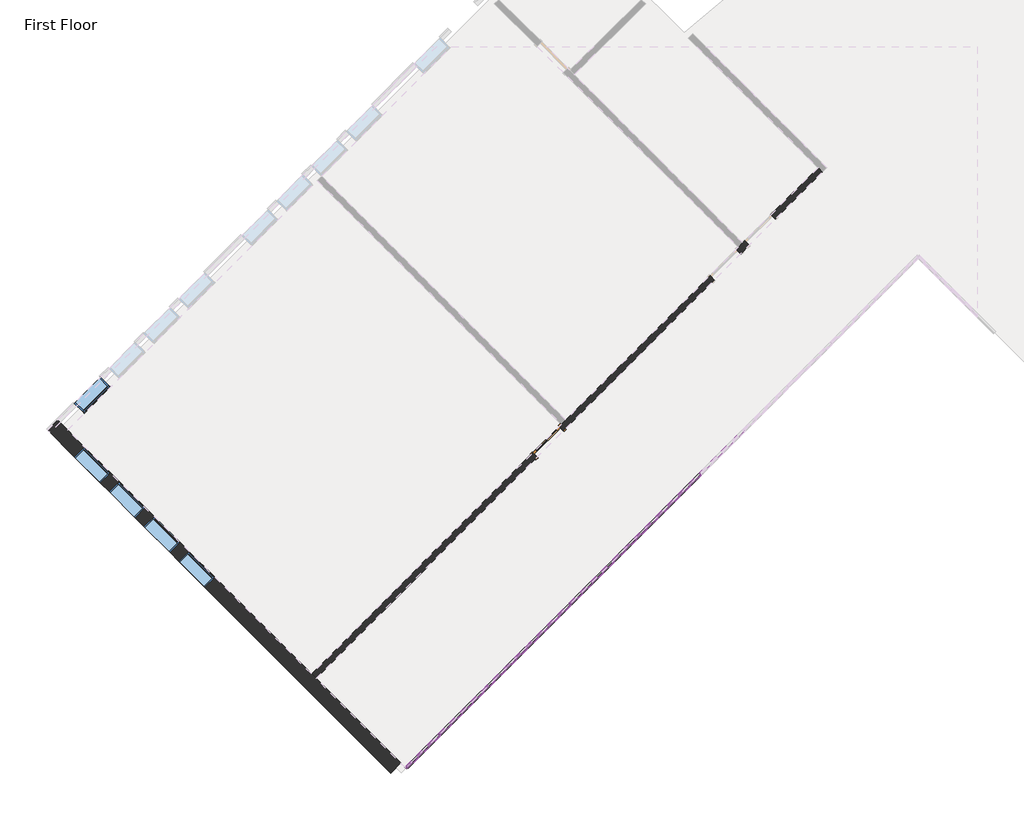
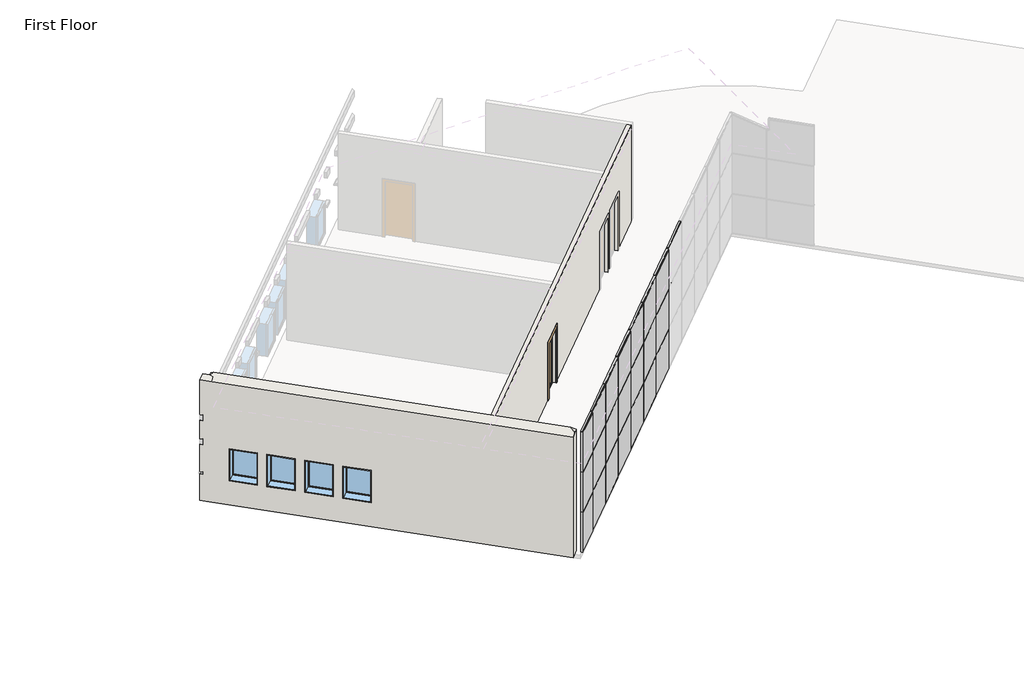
# One storey, part 1 of 5: 55 members, 21 plates, 5 windows, 2 walls, 1 door.
"""IFC4 building model written with IfcOpenShell, lengths in millimetres."""

from ifc_helpers import new_model, si_unit, origin, place, context, project, spatial, faceted_brep, transform, mapped, element, save
from components import door_b81abb0e, member_bd80eb51, member_155beb68, member_42be4715, member_6121af53, member_a3731390, member_b87a50da, system_panel_glazed_da345f4e, system_panel_glazed_b4114ee2, system_panel_glazed_f1e4c5b0, system_panel_glazed_dc791129, system_panel_solid_2f1037e2, system_panel_solid_6e0f4c8d, window_15c49d37, window_0e2fc6ce

model = new_model("IFC4")

# Units and contexts
model_context = context("Model", 3, world=origin())
ifc_project = project(units=[si_unit("LENGTHUNIT", "METRE", prefix="MILLI")], contexts=[model_context])

# Site, building, storey
site = spatial("IfcSite", under=ifc_project)
building = spatial("IfcBuilding", under=site)
storey = spatial("IfcBuildingStorey", under=building, Name="First Floor", Elevation=0.0)

# Door
placement = place(None, origin())
door_shape = door_b81abb0e(model_context)
element("IfcDoor", 1, ObjectType="Single-Glass 1 : 36\" x 84\"", at=placement, inside=storey, context=model_context, shape_type="MappedRepresentation", body=[
    mapped(door_shape, transform((-12027.7718255, -1647.4849877, 0.0), x_axis=(0.7071067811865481, 0.7071067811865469, 0.0), y_axis=(-0.7071067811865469, 0.7071067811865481, 0.0), z_axis=(0.0, 0.0, 1.0))),
])

# Members
member_shape = member_bd80eb51(model_context)
element("IfcMember", 2, ObjectType="Rectangular Mullion : 1.5\" x 2.5\" Rectangular", at=placement, inside=storey, context=model_context, shape_type="MappedRepresentation", body=[
    mapped(member_shape, transform((-15523.4543029, -9702.8925106, 4572.0), x_axis=(0.0, 0.0, 1.0), y_axis=(-0.7071067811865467, 0.7071067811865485, 0.0), z_axis=(-0.7071067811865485, -0.7071067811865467, 0.0))),
])
member_2_shape = member_155beb68(model_context)
element("IfcMember", 3, ObjectType="Rectangular Mullion : 1.5\" x 2.5\" Rectangular", at=placement, inside=storey, context=model_context, shape_type="MappedRepresentation", body=[
    mapped(member_2_shape, transform((-8256.1820369, -2435.6202446, 0.0), x_axis=(-0.7071067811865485, -0.7071067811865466, 0.0), y_axis=(-0.7071067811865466, 0.7071067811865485, 0.0), z_axis=(0.0, 0.0, -1.0))),
])
element("IfcMember", 4, ObjectType="Rectangular Mullion : 1.5\" x 2.5\" Rectangular", at=placement, inside=storey, context=model_context, shape_type="MappedRepresentation", body=[
    mapped(member_2_shape, transform((-9333.8127715, -3513.2509792, 0.0), x_axis=(-0.7071067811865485, -0.7071067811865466, 0.0), y_axis=(-0.7071067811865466, 0.7071067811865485, 0.0), z_axis=(0.0, 0.0, -1.0))),
])
element("IfcMember", 5, ObjectType="Rectangular Mullion : 1.5\" x 2.5\" Rectangular", at=placement, inside=storey, context=model_context, shape_type="MappedRepresentation", body=[
    mapped(member_2_shape, transform((-10411.443506, -4590.8817137, 0.0), x_axis=(-0.7071067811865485, -0.7071067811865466, 0.0), y_axis=(-0.7071067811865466, 0.7071067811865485, 0.0), z_axis=(0.0, 0.0, -1.0))),
])
element("IfcMember", 6, ObjectType="Rectangular Mullion : 1.5\" x 2.5\" Rectangular", at=placement, inside=storey, context=model_context, shape_type="MappedRepresentation", body=[
    mapped(member_2_shape, transform((-11489.0742405, -5668.5124482, 0.0), x_axis=(-0.7071067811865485, -0.7071067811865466, 0.0), y_axis=(-0.7071067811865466, 0.7071067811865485, 0.0), z_axis=(0.0, 0.0, -1.0))),
])
element("IfcMember", 7, ObjectType="Rectangular Mullion : 1.5\" x 2.5\" Rectangular", at=placement, inside=storey, context=model_context, shape_type="MappedRepresentation", body=[
    mapped(member_2_shape, transform((-12566.7049751, -6746.1431827, 0.0), x_axis=(-0.7071067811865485, -0.7071067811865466, 0.0), y_axis=(-0.7071067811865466, 0.7071067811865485, 0.0), z_axis=(0.0, 0.0, -1.0))),
])
element("IfcMember", 8, ObjectType="Rectangular Mullion : 1.5\" x 2.5\" Rectangular", at=placement, inside=storey, context=model_context, shape_type="MappedRepresentation", body=[
    mapped(member_2_shape, transform((-13644.3357096, -7823.7739173, 0.0), x_axis=(-0.7071067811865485, -0.7071067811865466, 0.0), y_axis=(-0.7071067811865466, 0.7071067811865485, 0.0), z_axis=(0.0, 0.0, -1.0))),
])
element("IfcMember", 9, ObjectType="Rectangular Mullion : 1.5\" x 2.5\" Rectangular", at=placement, inside=storey, context=model_context, shape_type="MappedRepresentation", body=[
    mapped(member_2_shape, transform((-14721.9664441, -8901.4046518, 0.0), x_axis=(-0.7071067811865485, -0.7071067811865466, 0.0), y_axis=(-0.7071067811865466, 0.7071067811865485, 0.0), z_axis=(0.0, 0.0, -1.0))),
])
element("IfcMember", 10, ObjectType="Rectangular Mullion : 1.5\" x 2.5\" Rectangular", at=placement, inside=storey, context=model_context, shape_type="MappedRepresentation", body=[
    mapped(member_2_shape, transform((-8256.1820369, -2435.6202446, 3048.0), x_axis=(-0.7071067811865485, -0.7071067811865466, 0.0), y_axis=(-0.7071067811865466, 0.7071067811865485, 0.0), z_axis=(0.0, 0.0, -1.0))),
])
element("IfcMember", 11, ObjectType="Rectangular Mullion : 1.5\" x 2.5\" Rectangular", at=placement, inside=storey, context=model_context, shape_type="MappedRepresentation", body=[
    mapped(member_2_shape, transform((-9333.8127715, -3513.2509792, 3048.0), x_axis=(-0.7071067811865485, -0.7071067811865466, 0.0), y_axis=(-0.7071067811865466, 0.7071067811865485, 0.0), z_axis=(0.0, 0.0, -1.0))),
])
element("IfcMember", 12, ObjectType="Rectangular Mullion : 1.5\" x 2.5\" Rectangular", at=placement, inside=storey, context=model_context, shape_type="MappedRepresentation", body=[
    mapped(member_2_shape, transform((-10411.443506, -4590.8817137, 3048.0), x_axis=(-0.7071067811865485, -0.7071067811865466, 0.0), y_axis=(-0.7071067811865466, 0.7071067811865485, 0.0), z_axis=(0.0, 0.0, -1.0))),
])
element("IfcMember", 13, ObjectType="Rectangular Mullion : 1.5\" x 2.5\" Rectangular", at=placement, inside=storey, context=model_context, shape_type="MappedRepresentation", body=[
    mapped(member_2_shape, transform((-11489.0742405, -5668.5124482, 3048.0), x_axis=(-0.7071067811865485, -0.7071067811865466, 0.0), y_axis=(-0.7071067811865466, 0.7071067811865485, 0.0), z_axis=(0.0, 0.0, -1.0))),
])
element("IfcMember", 14, ObjectType="Rectangular Mullion : 1.5\" x 2.5\" Rectangular", at=placement, inside=storey, context=model_context, shape_type="MappedRepresentation", body=[
    mapped(member_2_shape, transform((-12566.7049751, -6746.1431827, 3048.0), x_axis=(-0.7071067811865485, -0.7071067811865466, 0.0), y_axis=(-0.7071067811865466, 0.7071067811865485, 0.0), z_axis=(0.0, 0.0, -1.0))),
])
element("IfcMember", 15, ObjectType="Rectangular Mullion : 1.5\" x 2.5\" Rectangular", at=placement, inside=storey, context=model_context, shape_type="MappedRepresentation", body=[
    mapped(member_2_shape, transform((-13644.3357096, -7823.7739173, 3048.0), x_axis=(-0.7071067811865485, -0.7071067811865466, 0.0), y_axis=(-0.7071067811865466, 0.7071067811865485, 0.0), z_axis=(0.0, 0.0, -1.0))),
])
element("IfcMember", 16, ObjectType="Rectangular Mullion : 1.5\" x 2.5\" Rectangular", at=placement, inside=storey, context=model_context, shape_type="MappedRepresentation", body=[
    mapped(member_2_shape, transform((-14721.9664441, -8901.4046518, 3048.0), x_axis=(-0.7071067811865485, -0.7071067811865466, 0.0), y_axis=(-0.7071067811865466, 0.7071067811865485, 0.0), z_axis=(0.0, 0.0, -1.0))),
])
element("IfcMember", 17, ObjectType="Rectangular Mullion : 1.5\" x 2.5\" Rectangular", at=placement, inside=storey, context=model_context, shape_type="MappedRepresentation", body=[
    mapped(member_2_shape, transform((-8256.1820369, -2435.6202446, 1524.0), x_axis=(-0.7071067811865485, -0.7071067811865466, 0.0), y_axis=(-0.7071067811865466, 0.7071067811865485, 0.0), z_axis=(0.0, 0.0, -1.0))),
])
element("IfcMember", 18, ObjectType="Rectangular Mullion : 1.5\" x 2.5\" Rectangular", at=placement, inside=storey, context=model_context, shape_type="MappedRepresentation", body=[
    mapped(member_2_shape, transform((-9333.8127715, -3513.2509792, 1524.0), x_axis=(-0.7071067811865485, -0.7071067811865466, 0.0), y_axis=(-0.7071067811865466, 0.7071067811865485, 0.0), z_axis=(0.0, 0.0, -1.0))),
])
element("IfcMember", 19, ObjectType="Rectangular Mullion : 1.5\" x 2.5\" Rectangular", at=placement, inside=storey, context=model_context, shape_type="MappedRepresentation", body=[
    mapped(member_2_shape, transform((-10411.443506, -4590.8817137, 1524.0), x_axis=(-0.7071067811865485, -0.7071067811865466, 0.0), y_axis=(-0.7071067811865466, 0.7071067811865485, 0.0), z_axis=(0.0, 0.0, -1.0))),
])
element("IfcMember", 20, ObjectType="Rectangular Mullion : 1.5\" x 2.5\" Rectangular", at=placement, inside=storey, context=model_context, shape_type="MappedRepresentation", body=[
    mapped(member_2_shape, transform((-11489.0742405, -5668.5124482, 1524.0), x_axis=(-0.7071067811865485, -0.7071067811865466, 0.0), y_axis=(-0.7071067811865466, 0.7071067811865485, 0.0), z_axis=(0.0, 0.0, -1.0))),
])
element("IfcMember", 21, ObjectType="Rectangular Mullion : 1.5\" x 2.5\" Rectangular", at=placement, inside=storey, context=model_context, shape_type="MappedRepresentation", body=[
    mapped(member_2_shape, transform((-12566.7049751, -6746.1431827, 1524.0), x_axis=(-0.7071067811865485, -0.7071067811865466, 0.0), y_axis=(-0.7071067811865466, 0.7071067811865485, 0.0), z_axis=(0.0, 0.0, -1.0))),
])
element("IfcMember", 22, ObjectType="Rectangular Mullion : 1.5\" x 2.5\" Rectangular", at=placement, inside=storey, context=model_context, shape_type="MappedRepresentation", body=[
    mapped(member_2_shape, transform((-13644.3357096, -7823.7739173, 1524.0), x_axis=(-0.7071067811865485, -0.7071067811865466, 0.0), y_axis=(-0.7071067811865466, 0.7071067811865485, 0.0), z_axis=(0.0, 0.0, -1.0))),
])
element("IfcMember", 23, ObjectType="Rectangular Mullion : 1.5\" x 2.5\" Rectangular", at=placement, inside=storey, context=model_context, shape_type="MappedRepresentation", body=[
    mapped(member_2_shape, transform((-14721.9664441, -8901.4046518, 1524.0), x_axis=(-0.7071067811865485, -0.7071067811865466, 0.0), y_axis=(-0.7071067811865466, 0.7071067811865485, 0.0), z_axis=(0.0, 0.0, -1.0))),
])
member_3_shape = member_42be4715(model_context)
element("IfcMember", 24, ObjectType="Rectangular Mullion : 1.5\" x 2.5\" Rectangular", at=placement, inside=storey, context=model_context, shape_type="MappedRepresentation", body=[
    mapped(member_3_shape, transform((-8242.7116528, -2422.1498604, 1524.0), x_axis=(0.0, 0.0, 1.0), y_axis=(-0.7071067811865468, 0.7071067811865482, 0.0), z_axis=(-0.7071067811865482, -0.7071067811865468, 0.0))),
])
element("IfcMember", 25, ObjectType="Rectangular Mullion : 1.5\" x 2.5\" Rectangular", at=placement, inside=storey, context=model_context, shape_type="MappedRepresentation", body=[
    mapped(member_3_shape, transform((-9320.3423873, -3499.780595, 1524.0), x_axis=(0.0, 0.0, 1.0), y_axis=(-0.7071067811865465, 0.7071067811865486, 0.0), z_axis=(-0.7071067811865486, -0.7071067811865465, 0.0))),
])
element("IfcMember", 26, ObjectType="Rectangular Mullion : 1.5\" x 2.5\" Rectangular", at=placement, inside=storey, context=model_context, shape_type="MappedRepresentation", body=[
    mapped(member_3_shape, transform((-10397.9731218, -4577.4113295, 1524.0), x_axis=(0.0, 0.0, 1.0), y_axis=(-0.7071067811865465, 0.7071067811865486, 0.0), z_axis=(-0.7071067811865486, -0.7071067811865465, 0.0))),
])
element("IfcMember", 27, ObjectType="Rectangular Mullion : 1.5\" x 2.5\" Rectangular", at=placement, inside=storey, context=model_context, shape_type="MappedRepresentation", body=[
    mapped(member_3_shape, transform((-11475.6038564, -5655.042064, 1524.0), x_axis=(0.0, 0.0, 1.0), y_axis=(-0.7071067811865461, 0.707106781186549, 0.0), z_axis=(-0.7071067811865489, -0.707106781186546, 0.0))),
])
element("IfcMember", 28, ObjectType="Rectangular Mullion : 1.5\" x 2.5\" Rectangular", at=placement, inside=storey, context=model_context, shape_type="MappedRepresentation", body=[
    mapped(member_3_shape, transform((-12553.2345909, -6732.6727986, 1524.0), x_axis=(0.0, 0.0, 1.0), y_axis=(-0.7071067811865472, 0.7071067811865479, 0.0), z_axis=(-0.7071067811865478, -0.7071067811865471, 0.0))),
])
element("IfcMember", 29, ObjectType="Rectangular Mullion : 1.5\" x 2.5\" Rectangular", at=placement, inside=storey, context=model_context, shape_type="MappedRepresentation", body=[
    mapped(member_3_shape, transform((-13630.8653254, -7810.3035331, 1524.0), x_axis=(0.0, 0.0, 1.0), y_axis=(-0.7071067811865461, 0.707106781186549, 0.0), z_axis=(-0.707106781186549, -0.7071067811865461, 0.0))),
])
element("IfcMember", 30, ObjectType="Rectangular Mullion : 1.5\" x 2.5\" Rectangular", at=placement, inside=storey, context=model_context, shape_type="MappedRepresentation", body=[
    mapped(member_3_shape, transform((-14708.4960599, -8887.9342676, 1524.0), x_axis=(0.0, 0.0, 1.0), y_axis=(-0.7071067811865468, 0.7071067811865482, 0.0), z_axis=(-0.7071067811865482, -0.7071067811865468, 0.0))),
])
element("IfcMember", 31, ObjectType="Rectangular Mullion : 1.5\" x 2.5\" Rectangular", at=placement, inside=storey, context=model_context, shape_type="MappedRepresentation", body=[
    mapped(member_3_shape, transform((-8242.7116528, -2422.1498604, 3048.0), x_axis=(0.0, 0.0, 1.0), y_axis=(-0.7071067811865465, 0.7071067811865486, 0.0), z_axis=(-0.7071067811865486, -0.7071067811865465, 0.0))),
])
element("IfcMember", 32, ObjectType="Rectangular Mullion : 1.5\" x 2.5\" Rectangular", at=placement, inside=storey, context=model_context, shape_type="MappedRepresentation", body=[
    mapped(member_3_shape, transform((-9320.3423873, -3499.780595, 3048.0), x_axis=(0.0, 0.0, 1.0), y_axis=(-0.7071067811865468, 0.7071067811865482, 0.0), z_axis=(-0.7071067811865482, -0.7071067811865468, 0.0))),
])
element("IfcMember", 33, ObjectType="Rectangular Mullion : 1.5\" x 2.5\" Rectangular", at=placement, inside=storey, context=model_context, shape_type="MappedRepresentation", body=[
    mapped(member_3_shape, transform((-10397.9731218, -4577.4113295, 3048.0), x_axis=(0.0, 0.0, 1.0), y_axis=(-0.7071067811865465, 0.7071067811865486, 0.0), z_axis=(-0.7071067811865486, -0.7071067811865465, 0.0))),
])
element("IfcMember", 34, ObjectType="Rectangular Mullion : 1.5\" x 2.5\" Rectangular", at=placement, inside=storey, context=model_context, shape_type="MappedRepresentation", body=[
    mapped(member_3_shape, transform((-11475.6038564, -5655.042064, 3048.0), x_axis=(0.0, 0.0, 1.0), y_axis=(-0.7071067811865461, 0.707106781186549, 0.0), z_axis=(-0.7071067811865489, -0.707106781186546, 0.0))),
])
element("IfcMember", 35, ObjectType="Rectangular Mullion : 1.5\" x 2.5\" Rectangular", at=placement, inside=storey, context=model_context, shape_type="MappedRepresentation", body=[
    mapped(member_3_shape, transform((-12553.2345909, -6732.6727986, 3048.0), x_axis=(0.0, 0.0, 1.0), y_axis=(-0.7071067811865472, 0.7071067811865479, 0.0), z_axis=(-0.7071067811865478, -0.7071067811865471, 0.0))),
])
element("IfcMember", 36, ObjectType="Rectangular Mullion : 1.5\" x 2.5\" Rectangular", at=placement, inside=storey, context=model_context, shape_type="MappedRepresentation", body=[
    mapped(member_3_shape, transform((-13630.8653254, -7810.3035331, 3048.0), x_axis=(0.0, 0.0, 1.0), y_axis=(-0.7071067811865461, 0.707106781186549, 0.0), z_axis=(-0.707106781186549, -0.7071067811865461, 0.0))),
])
element("IfcMember", 37, ObjectType="Rectangular Mullion : 1.5\" x 2.5\" Rectangular", at=placement, inside=storey, context=model_context, shape_type="MappedRepresentation", body=[
    mapped(member_3_shape, transform((-14708.4960599, -8887.9342676, 3048.0), x_axis=(0.0, 0.0, 1.0), y_axis=(-0.7071067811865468, 0.7071067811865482, 0.0), z_axis=(-0.7071067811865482, -0.7071067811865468, 0.0))),
])
member_4_shape = member_6121af53(model_context)
element("IfcMember", 38, ObjectType="Rectangular Mullion : 1.5\" x 2.5\" Rectangular", at=placement, inside=storey, context=model_context, shape_type="MappedRepresentation", body=[
    mapped(member_4_shape, transform((-8269.6524211, -2449.0906288, 0.0), x_axis=(0.0, 0.0, -1.0), y_axis=(-0.7071067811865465, 0.7071067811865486, 0.0), z_axis=(0.7071067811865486, 0.7071067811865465, 0.0))),
])
element("IfcMember", 39, ObjectType="Rectangular Mullion : 1.5\" x 2.5\" Rectangular", at=placement, inside=storey, context=model_context, shape_type="MappedRepresentation", body=[
    mapped(member_4_shape, transform((-9347.2831557, -3526.7213633, 0.0), x_axis=(0.0, 0.0, -1.0), y_axis=(-0.7071067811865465, 0.7071067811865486, 0.0), z_axis=(0.7071067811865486, 0.7071067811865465, 0.0))),
])
element("IfcMember", 40, ObjectType="Rectangular Mullion : 1.5\" x 2.5\" Rectangular", at=placement, inside=storey, context=model_context, shape_type="MappedRepresentation", body=[
    mapped(member_4_shape, transform((-10424.9138902, -4604.3520979, 0.0), x_axis=(0.0, 0.0, -1.0), y_axis=(-0.7071067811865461, 0.707106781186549, 0.0), z_axis=(0.7071067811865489, 0.707106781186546, 0.0))),
])
element("IfcMember", 41, ObjectType="Rectangular Mullion : 1.5\" x 2.5\" Rectangular", at=placement, inside=storey, context=model_context, shape_type="MappedRepresentation", body=[
    mapped(member_4_shape, transform((-11502.5446247, -5681.9828324, 0.0), x_axis=(0.0, 0.0, -1.0), y_axis=(-0.7071067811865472, 0.7071067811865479, 0.0), z_axis=(0.7071067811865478, 0.7071067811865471, 0.0))),
])
element("IfcMember", 42, ObjectType="Rectangular Mullion : 1.5\" x 2.5\" Rectangular", at=placement, inside=storey, context=model_context, shape_type="MappedRepresentation", body=[
    mapped(member_4_shape, transform((-12580.1753592, -6759.6135669, 0.0), x_axis=(0.0, 0.0, -1.0), y_axis=(-0.7071067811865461, 0.707106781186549, 0.0), z_axis=(0.707106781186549, 0.7071067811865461, 0.0))),
])
element("IfcMember", 43, ObjectType="Rectangular Mullion : 1.5\" x 2.5\" Rectangular", at=placement, inside=storey, context=model_context, shape_type="MappedRepresentation", body=[
    mapped(member_4_shape, transform((-13657.8060938, -7837.2443014, 0.0), x_axis=(0.0, 0.0, -1.0), y_axis=(-0.7071067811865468, 0.7071067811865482, 0.0), z_axis=(0.7071067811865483, 0.7071067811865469, 0.0))),
])
element("IfcMember", 44, ObjectType="Rectangular Mullion : 1.5\" x 2.5\" Rectangular", at=placement, inside=storey, context=model_context, shape_type="MappedRepresentation", body=[
    mapped(member_shape, transform((-14735.4368283, -8914.875036, 0.0), x_axis=(0.0, 0.0, -1.0), y_axis=(-0.7071067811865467, 0.7071067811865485, 0.0), z_axis=(0.7071067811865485, 0.7071067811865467, 0.0))),
])
element("IfcMember", 45, ObjectType="Rectangular Mullion : 1.5\" x 2.5\" Rectangular", at=placement, inside=storey, context=model_context, shape_type="MappedRepresentation", body=[
    mapped(member_4_shape, transform((-8242.7116528, -2422.1498604, 4572.0), x_axis=(0.0, 0.0, 1.0), y_axis=(-0.7071067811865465, 0.7071067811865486, 0.0), z_axis=(-0.7071067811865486, -0.7071067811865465, 0.0))),
])
element("IfcMember", 46, ObjectType="Rectangular Mullion : 1.5\" x 2.5\" Rectangular", at=placement, inside=storey, context=model_context, shape_type="MappedRepresentation", body=[
    mapped(member_4_shape, transform((-9320.3423873, -3499.780595, 4572.0), x_axis=(0.0, 0.0, 1.0), y_axis=(-0.7071067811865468, 0.7071067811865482, 0.0), z_axis=(-0.7071067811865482, -0.7071067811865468, 0.0))),
])
element("IfcMember", 47, ObjectType="Rectangular Mullion : 1.5\" x 2.5\" Rectangular", at=placement, inside=storey, context=model_context, shape_type="MappedRepresentation", body=[
    mapped(member_4_shape, transform((-10397.9731218, -4577.4113295, 4572.0), x_axis=(0.0, 0.0, 1.0), y_axis=(-0.7071067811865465, 0.7071067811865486, 0.0), z_axis=(-0.7071067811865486, -0.7071067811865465, 0.0))),
])
element("IfcMember", 48, ObjectType="Rectangular Mullion : 1.5\" x 2.5\" Rectangular", at=placement, inside=storey, context=model_context, shape_type="MappedRepresentation", body=[
    mapped(member_4_shape, transform((-11475.6038564, -5655.042064, 4572.0), x_axis=(0.0, 0.0, 1.0), y_axis=(-0.7071067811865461, 0.707106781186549, 0.0), z_axis=(-0.7071067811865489, -0.707106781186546, 0.0))),
])
element("IfcMember", 49, ObjectType="Rectangular Mullion : 1.5\" x 2.5\" Rectangular", at=placement, inside=storey, context=model_context, shape_type="MappedRepresentation", body=[
    mapped(member_4_shape, transform((-12553.2345909, -6732.6727986, 4572.0), x_axis=(0.0, 0.0, 1.0), y_axis=(-0.7071067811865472, 0.7071067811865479, 0.0), z_axis=(-0.7071067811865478, -0.7071067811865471, 0.0))),
])
element("IfcMember", 50, ObjectType="Rectangular Mullion : 1.5\" x 2.5\" Rectangular", at=placement, inside=storey, context=model_context, shape_type="MappedRepresentation", body=[
    mapped(member_4_shape, transform((-13630.8653254, -7810.3035331, 4572.0), x_axis=(0.0, 0.0, 1.0), y_axis=(-0.7071067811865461, 0.707106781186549, 0.0), z_axis=(-0.707106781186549, -0.7071067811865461, 0.0))),
])
element("IfcMember", 51, ObjectType="Rectangular Mullion : 1.5\" x 2.5\" Rectangular", at=placement, inside=storey, context=model_context, shape_type="MappedRepresentation", body=[
    mapped(member_4_shape, transform((-14708.4960599, -8887.9342676, 4572.0), x_axis=(0.0, 0.0, 1.0), y_axis=(-0.7071067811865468, 0.7071067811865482, 0.0), z_axis=(-0.7071067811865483, -0.7071067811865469, 0.0))),
])
member_5_shape = member_a3731390(model_context)
element("IfcMember", 52, ObjectType="Rectangular Mullion : 1.5\" x 2.5\" Rectangular", at=placement, inside=storey, context=model_context, shape_type="MappedRepresentation", body=[
    mapped(member_5_shape, transform((-15523.4543029, -9702.8925106, 1524.0), x_axis=(0.0, 0.0, 1.0), y_axis=(-0.7071067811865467, 0.7071067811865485, 0.0), z_axis=(-0.7071067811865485, -0.7071067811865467, 0.0))),
])
element("IfcMember", 53, ObjectType="Rectangular Mullion : 1.5\" x 2.5\" Rectangular", at=placement, inside=storey, context=model_context, shape_type="MappedRepresentation", body=[
    mapped(member_5_shape, transform((-15523.4543029, -9702.8925106, 3048.0), x_axis=(0.0, 0.0, 1.0), y_axis=(-0.7071067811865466, 0.7071067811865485, 0.0), z_axis=(-0.7071067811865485, -0.7071067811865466, 0.0))),
])
member_6_shape = member_b87a50da(model_context)
element("IfcMember", 54, ObjectType="Rectangular Mullion : 1.5\" x 2.5\" Rectangular", at=placement, inside=storey, context=model_context, shape_type="MappedRepresentation", body=[
    mapped(member_6_shape, transform((-15550.3950713, -9729.833279, 0.0), x_axis=(-0.7071067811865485, -0.7071067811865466, 0.0), y_axis=(-0.7071067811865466, 0.7071067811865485, 0.0), z_axis=(0.0, 0.0, -1.0))),
])
element("IfcMember", 55, ObjectType="Rectangular Mullion : 1.5\" x 2.5\" Rectangular", at=placement, inside=storey, context=model_context, shape_type="MappedRepresentation", body=[
    mapped(member_6_shape, transform((-15550.3950713, -9729.833279, 1524.0), x_axis=(-0.7071067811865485, -0.7071067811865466, 0.0), y_axis=(-0.7071067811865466, 0.7071067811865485, 0.0), z_axis=(0.0, 0.0, -1.0))),
])
element("IfcMember", 56, ObjectType="Rectangular Mullion : 1.5\" x 2.5\" Rectangular", at=placement, inside=storey, context=model_context, shape_type="MappedRepresentation", body=[
    mapped(member_6_shape, transform((-15550.3950713, -9729.833279, 3048.0), x_axis=(-0.7071067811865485, -0.7071067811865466, 0.0), y_axis=(-0.7071067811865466, 0.7071067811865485, 0.0), z_axis=(0.0, 0.0, -1.0))),
])

# Plates
system_panel_glazed_shape = system_panel_glazed_da345f4e(model_context)
element("IfcPlate", 57, ObjectType="System Panel : Glazed", at=placement, inside=storey, context=model_context, shape_type="MappedRepresentation", body=[
    mapped(system_panel_glazed_shape, transform((-8794.9974042, -2974.4356119, 38.1), x_axis=(-0.7071067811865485, -0.7071067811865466, 0.0), y_axis=(0.7071067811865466, -0.7071067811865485, 0.0), z_axis=(0.0, 0.0, 1.0))),
])
element("IfcPlate", 58, ObjectType="System Panel : Glazed", at=placement, inside=storey, context=model_context, shape_type="MappedRepresentation", body=[
    mapped(system_panel_glazed_shape, transform((-9872.6281387, -4052.0663464, 38.1), x_axis=(-0.7071067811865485, -0.7071067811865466, 0.0), y_axis=(0.7071067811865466, -0.7071067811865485, 0.0), z_axis=(0.0, 0.0, 1.0))),
])
element("IfcPlate", 59, ObjectType="System Panel : Glazed", at=placement, inside=storey, context=model_context, shape_type="MappedRepresentation", body=[
    mapped(system_panel_glazed_shape, transform((-10950.2588733, -5129.6970809, 38.1), x_axis=(-0.7071067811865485, -0.7071067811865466, 0.0), y_axis=(0.7071067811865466, -0.7071067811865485, 0.0), z_axis=(0.0, 0.0, 1.0))),
])
element("IfcPlate", 60, ObjectType="System Panel : Glazed", at=placement, inside=storey, context=model_context, shape_type="MappedRepresentation", body=[
    mapped(system_panel_glazed_shape, transform((-12027.8896078, -6207.3278155, 38.1), x_axis=(-0.7071067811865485, -0.7071067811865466, 0.0), y_axis=(0.7071067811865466, -0.7071067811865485, 0.0), z_axis=(0.0, 0.0, 1.0))),
])
element("IfcPlate", 61, ObjectType="System Panel : Glazed", at=placement, inside=storey, context=model_context, shape_type="MappedRepresentation", body=[
    mapped(system_panel_glazed_shape, transform((-13105.5203423, -7284.95855, 38.1), x_axis=(-0.7071067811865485, -0.7071067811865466, 0.0), y_axis=(0.7071067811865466, -0.7071067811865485, 0.0), z_axis=(0.0, 0.0, 1.0))),
])
element("IfcPlate", 62, ObjectType="System Panel : Glazed", at=placement, inside=storey, context=model_context, shape_type="MappedRepresentation", body=[
    mapped(system_panel_glazed_shape, transform((-14183.1510769, -8362.5892845, 38.1), x_axis=(-0.7071067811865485, -0.7071067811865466, 0.0), y_axis=(0.7071067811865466, -0.7071067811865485, 0.0), z_axis=(0.0, 0.0, 1.0))),
])
system_panel_glazed_2_shape = system_panel_glazed_b4114ee2(model_context)
element("IfcPlate", 63, ObjectType="System Panel : Glazed", at=placement, inside=storey, context=model_context, shape_type="MappedRepresentation", body=[
    mapped(system_panel_glazed_2_shape, transform((-15129.4455656, -9308.8837733, 38.1), x_axis=(-0.7071067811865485, -0.7071067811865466, 0.0), y_axis=(0.7071067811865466, -0.7071067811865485, 0.0), z_axis=(0.0, 0.0, 1.0))),
])
system_panel_glazed_3_shape = system_panel_glazed_f1e4c5b0(model_context)
element("IfcPlate", 64, ObjectType="System Panel : Glazed", at=placement, inside=storey, context=model_context, shape_type="MappedRepresentation", body=[
    mapped(system_panel_glazed_3_shape, transform((-8794.9974042, -2974.4356119, 1543.05), x_axis=(-0.7071067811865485, -0.7071067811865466, 0.0), y_axis=(0.7071067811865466, -0.7071067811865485, 0.0), z_axis=(0.0, 0.0, 1.0))),
])
element("IfcPlate", 65, ObjectType="System Panel : Glazed", at=placement, inside=storey, context=model_context, shape_type="MappedRepresentation", body=[
    mapped(system_panel_glazed_3_shape, transform((-9872.6281387, -4052.0663464, 1543.05), x_axis=(-0.7071067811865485, -0.7071067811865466, 0.0), y_axis=(0.7071067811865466, -0.7071067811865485, 0.0), z_axis=(0.0, 0.0, 1.0))),
])
element("IfcPlate", 66, ObjectType="System Panel : Glazed", at=placement, inside=storey, context=model_context, shape_type="MappedRepresentation", body=[
    mapped(system_panel_glazed_3_shape, transform((-10950.2588733, -5129.6970809, 1543.05), x_axis=(-0.7071067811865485, -0.7071067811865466, 0.0), y_axis=(0.7071067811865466, -0.7071067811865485, 0.0), z_axis=(0.0, 0.0, 1.0))),
])
element("IfcPlate", 67, ObjectType="System Panel : Glazed", at=placement, inside=storey, context=model_context, shape_type="MappedRepresentation", body=[
    mapped(system_panel_glazed_3_shape, transform((-12027.8896078, -6207.3278155, 1543.05), x_axis=(-0.7071067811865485, -0.7071067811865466, 0.0), y_axis=(0.7071067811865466, -0.7071067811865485, 0.0), z_axis=(0.0, 0.0, 1.0))),
])
element("IfcPlate", 68, ObjectType="System Panel : Glazed", at=placement, inside=storey, context=model_context, shape_type="MappedRepresentation", body=[
    mapped(system_panel_glazed_3_shape, transform((-13105.5203423, -7284.95855, 1543.05), x_axis=(-0.7071067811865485, -0.7071067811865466, 0.0), y_axis=(0.7071067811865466, -0.7071067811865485, 0.0), z_axis=(0.0, 0.0, 1.0))),
])
element("IfcPlate", 69, ObjectType="System Panel : Glazed", at=placement, inside=storey, context=model_context, shape_type="MappedRepresentation", body=[
    mapped(system_panel_glazed_3_shape, transform((-14183.1510769, -8362.5892845, 1543.05), x_axis=(-0.7071067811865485, -0.7071067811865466, 0.0), y_axis=(0.7071067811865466, -0.7071067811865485, 0.0), z_axis=(0.0, 0.0, 1.0))),
])
system_panel_glazed_4_shape = system_panel_glazed_dc791129(model_context)
element("IfcPlate", 70, ObjectType="System Panel : Glazed", at=placement, inside=storey, context=model_context, shape_type="MappedRepresentation", body=[
    mapped(system_panel_glazed_4_shape, transform((-15129.4455656, -9308.8837733, 1543.05), x_axis=(-0.7071067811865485, -0.7071067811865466, 0.0), y_axis=(0.7071067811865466, -0.7071067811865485, 0.0), z_axis=(0.0, 0.0, 1.0))),
])
system_panel_solid_shape = system_panel_solid_2f1037e2(model_context)
element("IfcPlate", 71, ObjectType="System Panel : Solid", at=placement, inside=storey, context=model_context, shape_type="MappedRepresentation", body=[
    mapped(system_panel_solid_shape, transform((-8794.9974042, -2974.4356119, 3067.05), x_axis=(-0.7071067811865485, -0.7071067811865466, 0.0), y_axis=(0.7071067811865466, -0.7071067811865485, 0.0), z_axis=(0.0, 0.0, 1.0))),
])
element("IfcPlate", 72, ObjectType="System Panel : Solid", at=placement, inside=storey, context=model_context, shape_type="MappedRepresentation", body=[
    mapped(system_panel_solid_shape, transform((-9872.6281387, -4052.0663464, 3067.05), x_axis=(-0.7071067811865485, -0.7071067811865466, 0.0), y_axis=(0.7071067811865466, -0.7071067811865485, 0.0), z_axis=(0.0, 0.0, 1.0))),
])
element("IfcPlate", 73, ObjectType="System Panel : Solid", at=placement, inside=storey, context=model_context, shape_type="MappedRepresentation", body=[
    mapped(system_panel_solid_shape, transform((-10950.2588733, -5129.6970809, 3067.05), x_axis=(-0.7071067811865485, -0.7071067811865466, 0.0), y_axis=(0.7071067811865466, -0.7071067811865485, 0.0), z_axis=(0.0, 0.0, 1.0))),
])
element("IfcPlate", 74, ObjectType="System Panel : Solid", at=placement, inside=storey, context=model_context, shape_type="MappedRepresentation", body=[
    mapped(system_panel_solid_shape, transform((-12027.8896078, -6207.3278155, 3067.05), x_axis=(-0.7071067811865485, -0.7071067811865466, 0.0), y_axis=(0.7071067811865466, -0.7071067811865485, 0.0), z_axis=(0.0, 0.0, 1.0))),
])
element("IfcPlate", 75, ObjectType="System Panel : Solid", at=placement, inside=storey, context=model_context, shape_type="MappedRepresentation", body=[
    mapped(system_panel_solid_shape, transform((-13105.5203423, -7284.95855, 3067.05), x_axis=(-0.7071067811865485, -0.7071067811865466, 0.0), y_axis=(0.7071067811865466, -0.7071067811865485, 0.0), z_axis=(0.0, 0.0, 1.0))),
])
element("IfcPlate", 76, ObjectType="System Panel : Solid", at=placement, inside=storey, context=model_context, shape_type="MappedRepresentation", body=[
    mapped(system_panel_solid_shape, transform((-14183.1510769, -8362.5892845, 3067.05), x_axis=(-0.7071067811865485, -0.7071067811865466, 0.0), y_axis=(0.7071067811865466, -0.7071067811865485, 0.0), z_axis=(0.0, 0.0, 1.0))),
])
system_panel_solid_2_shape = system_panel_solid_6e0f4c8d(model_context)
element("IfcPlate", 77, ObjectType="System Panel : Solid", at=placement, inside=storey, context=model_context, shape_type="MappedRepresentation", body=[
    mapped(system_panel_solid_2_shape, transform((-15129.4455656, -9308.8837733, 3067.05), x_axis=(-0.7071067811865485, -0.7071067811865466, 0.0), y_axis=(0.7071067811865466, -0.7071067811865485, 0.0), z_axis=(0.0, 0.0, 1.0))),
])

# Walls
element("IfcWall", 78, ObjectType="Exterior - Brick on Mtl. Stud", at=placement, inside=storey, context=model_context, shape_type="Brep", body=[
    faceted_brep([(-15674.996125, -9605.2322253, 0.0), (-15674.996125, -9605.2322253, 4630.7375), (-15799.5971786, -9729.833279, 4630.7375), (-15924.1982323, -9854.4343326, 4572.0), (-15924.1982323, -9854.4343326, 0.0), (-15791.7394545, -9721.9755549, 0.0), (-17775.2535253, -7504.974825, 0.0), (-17885.2616628, -7394.9666875, 0.0), (-23922.2388402, -1357.9895101, 0.0), (-24038.9821697, -1241.2461805, 0.0), (-24171.4409475, -1108.7874027, 0.0), (-24171.4409475, -1108.7874027, 1016.0), (-24106.3340906, -1173.8942596, 1016.0), (-24106.3340906, -1173.8942596, 1085.85), (-24171.4409475, -1108.7874027, 1085.85), (-24171.4409475, -1108.7874027, 2133.6), (-24106.3340906, -1173.8942596, 2133.6), (-24106.3340906, -1173.8942596, 2336.8), (-24171.4409475, -1108.7874027, 2336.8), (-24171.4409475, -1108.7874027, 3048.0), (-24106.3340906, -1173.8942596, 3048.0), (-24106.3340906, -1173.8942596, 3251.2), (-24171.4409475, -1108.7874027, 3251.2), (-24171.4409475, -1108.7874027, 4572.0), (-23922.2388402, -1357.9895101, 4572.0), (-23902.0332639, -1378.1950864, 4572.0), (-23902.0332639, -1378.1950864, 4635.5), (-23922.2388402, -1357.9895101, 4639.3965909), (-23997.6295387, -1282.5988115, 4653.9354839), (-23922.2388402, -1357.9895101, 4689.475), (-15799.5971786, -9480.6311716, 4689.475), (-20921.7107637, -4358.5175865, 2133.6), (-20921.7107637, -4358.5175865, 914.4), (-20275.132323, -5005.0960273, 914.4), (-20275.132323, -5005.0960273, 2133.6), (-21783.8153513, -3496.4129989, 2133.6), (-21783.8153513, -3496.4129989, 914.4), (-21137.2369106, -4142.9914396, 914.4), (-21137.2369106, -4142.9914396, 2133.6), (-22645.9199389, -2634.3084113, 2133.6), (-22645.9199389, -2634.3084113, 914.4), (-21999.3414982, -3280.886852, 914.4), (-21999.3414982, -3280.886852, 2133.6), (-23508.0245266, -1772.2038237, 2133.6), (-23508.0245266, -1772.2038237, 914.4), (-22861.4460859, -2418.7822644, 914.4), (-22861.4460859, -2418.7822644, 2133.6), (-24151.2353712, -1627.3971937, 4572.0), (-24420.6430549, -1357.9895101, 4572.0), (-24420.6430549, -1357.9895101, 3251.2), (-24355.536198, -1423.096367, 3251.2), (-24355.536198, -1423.096367, 3048.0), (-24420.6430549, -1357.9895101, 3048.0), (-24420.6430549, -1357.9895101, 2336.8), (-24355.536198, -1423.096367, 2336.8), (-24355.536198, -1423.096367, 2133.6), (-24420.6430549, -1357.9895101, 2133.6), (-24420.6430549, -1357.9895101, 1085.85), (-24355.536198, -1423.096367, 1085.85), (-24355.536198, -1423.096367, 1016.0), (-24420.6430549, -1357.9895101, 1016.0), (-24420.6430549, -1357.9895101, 0.0), (-24288.1842771, -1490.4482879, 0.0), (-21170.9128711, -4607.7196939, 914.4), (-21170.9128711, -4607.7196939, 2133.6), (-20524.3344303, -5254.2981346, 2133.6), (-20524.3344303, -5254.2981346, 914.4), (-22033.0174587, -3745.6151063, 914.4), (-22033.0174587, -3745.6151063, 2133.6), (-21386.439018, -4392.193547, 2133.6), (-21386.439018, -4392.193547, 914.4), (-22895.1220463, -2883.5105187, 914.4), (-22895.1220463, -2883.5105187, 2133.6), (-22248.5436056, -3530.0889594, 2133.6), (-22248.5436056, -3530.0889594, 914.4), (-23757.2266339, -2021.405931, 914.4), (-23757.2266339, -2021.405931, 2133.6), (-23110.6481932, -2667.9843718, 2133.6), (-23110.6481932, -2667.9843718, 914.4), (-24288.1842771, -1225.5307323, 0.0), (-24155.7254993, -1357.9895101, 0.0), (-24073.0202373, -1357.9895101, 4653.9354839), (-24016.5315294, -1492.6933519, 4635.5)], [[[0, 1, 2, 3, 4, 5]], [[1, 0, 6, 7, 8, 9, 10, 11, 12, 13, 14, 15, 16, 17, 18, 19, 20, 21, 22, 23, 24, 25, 26, 27, 28, 29, 30], [31, 32, 33, 34], [35, 36, 37, 38], [39, 40, 41, 42], [43, 44, 45, 46]], [[4, 3, 47, 48, 49, 50, 51, 52, 53, 54, 55, 56, 57, 58, 59, 60, 61, 62], [63, 64, 65, 66], [67, 68, 69, 70], [71, 72, 73, 74], [75, 76, 77, 78]], [[79, 61, 60, 11, 10]], [[14, 57, 56, 15]], [[18, 53, 52, 19]], [[23, 22, 49, 48]], [[4, 62, 80, 5]], [[10, 9, 80, 79]], [[62, 61, 79, 80]], [[9, 8, 7, 6, 0, 5, 80]], [[1, 30, 2]], [[30, 29, 81, 82, 47, 3, 2]], [[29, 28, 81]], [[32, 31, 64, 63]], [[33, 32, 63, 66]], [[34, 33, 66, 65]], [[31, 34, 65, 64]], [[36, 35, 68, 67]], [[37, 36, 67, 70]], [[38, 37, 70, 69]], [[35, 38, 69, 68]], [[40, 39, 72, 71]], [[41, 40, 71, 74]], [[42, 41, 74, 73]], [[39, 42, 73, 72]], [[44, 43, 76, 75]], [[45, 44, 75, 78]], [[46, 45, 78, 77]], [[43, 46, 77, 76]], [[13, 58, 57, 14]], [[59, 12, 11, 60]], [[58, 13, 12, 59]], [[55, 16, 15, 56]], [[16, 55, 54, 17]], [[17, 54, 53, 18]], [[51, 20, 19, 52]], [[20, 51, 50, 21]], [[21, 50, 49, 22]], [[26, 82, 81, 28, 27]], [[47, 25, 24, 23, 48]], [[82, 26, 25, 47]]]),
])
element("IfcWall", 79, ObjectType="Interior - 6 1/8\" Partition (2-hr)", at=placement, inside=storey, context=model_context, shape_type="Brep", body=[
    faceted_brep([(-7374.9944051, 3115.3005702, 0.0), (-7322.2354004, 3168.0595749, 0.0), (-7212.2272629, 3278.0677124, 0.0), (-7159.4682582, 3330.8267171, 0.0), (-7049.4601207, 3220.8185796, 0.0), (-7264.9862676, 3005.2924327, 0.0), (-12296.0569771, -2025.7782768, 0.0), (-17775.2535253, -7504.974825, 0.0), (-17885.2616628, -7394.9666875, 0.0), (-12406.0651146, -1915.7701393, 0.0), (-7911.5647083, 2358.713992, 0.0), (-11649.4785364, -1379.1998361, 0.0), (-11759.4866739, -1269.1916986, 0.0), (-11706.7276692, -1216.4326939, 0.0), (-11596.7195317, -1106.4245564, 0.0), (-8021.5728458, 2468.7221295, 0.0), (-6512.8898174, 3977.4051578, 0.0), (-5348.5885532, 5141.7064221, 0.0), (-5238.5804157, 5031.6982846, 0.0), (-6402.88168, 3867.3970204, 0.0), (-17775.2535253, -7504.974825, 3657.6), (-5238.5804157, 5031.6982846, 3657.6), (-5348.5885532, 5141.7064221, 3657.6), (-7212.2272629, 3278.0677124, 3657.6), (-7322.2354004, 3168.0595749, 3657.6), (-11596.7195317, -1106.4245564, 3657.6), (-11706.7276692, -1216.4326939, 3657.6), (-17885.2616628, -7394.9666875, 3657.6), (-7049.4601207, 3220.8185796, 2133.6), (-6402.88168, 3867.3970204, 2133.6), (-12296.0569771, -2025.7782768, 2133.6), (-11649.4785364, -1379.1998361, 2133.6), (-7911.5647083, 2358.713992, 2133.6), (-7264.9862676, 3005.2924327, 2133.6), (-7159.4682582, 3330.8267171, 2133.6), (-7374.9944051, 3115.3005702, 2133.6), (-8021.5728458, 2468.7221295, 2133.6), (-11759.4866739, -1269.1916986, 2133.6), (-12406.0651146, -1915.7701393, 2133.6), (-6512.8898174, 3977.4051578, 2133.6)], [[[0, 1, 2, 3, 4, 5]], [[6, 7, 8, 9]], [[10, 11, 12, 13, 14, 15]], [[16, 17, 18, 19]], [[20, 21, 22, 23, 24, 25, 26, 27]], [[5, 4, 28, 29, 19, 18, 21, 20, 7, 6, 30, 31, 11, 10, 32, 33]], [[34, 3, 2, 1, 0, 35, 36, 15, 14, 13, 12, 37, 38, 9, 8, 27, 26, 25, 24, 23, 22, 17, 16, 39]], [[7, 20, 27, 8]], [[21, 18, 17, 22]], [[37, 12, 11, 31]], [[38, 37, 31, 30]], [[9, 38, 30, 6]], [[35, 0, 5, 33]], [[36, 35, 33, 32]], [[15, 36, 32, 10]], [[28, 4, 3, 34]], [[29, 28, 34, 39]], [[19, 29, 39, 16]]]),
])

# Windows
window_shape = window_15c49d37(model_context)
element("IfcWindow", 80, ObjectType="Fixed : 36\" x 48\"", at=placement, inside=storey, context=model_context, shape_type="MappedRepresentation", body=[
    mapped(window_shape, transform((-23336.2771283, -522.8256908, 0.0), x_axis=(-0.7071067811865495, -0.7071067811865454, 0.0), y_axis=(0.7071067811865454, -0.7071067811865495, 0.0), z_axis=(0.0, 0.0, 1.0))),
])
window_2_shape = window_0e2fc6ce(model_context)
element("IfcWindow", 81, ObjectType="Fixed : 36\" x 48\"", at=placement, inside=storey, context=model_context, shape_type="MappedRepresentation", body=[
    mapped(window_2_shape, transform((-23336.2771283, -2193.1533294, 0.0), x_axis=(-0.7071067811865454, 0.7071067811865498, 0.0), y_axis=(-0.7071067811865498, -0.7071067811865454, 0.0), z_axis=(0.0, 0.0, 1.0))),
])
element("IfcWindow", 82, ObjectType="Fixed : 36\" x 48\"", at=placement, inside=storey, context=model_context, shape_type="MappedRepresentation", body=[
    mapped(window_2_shape, transform((-22474.1725406, -3055.257917, 0.0), x_axis=(-0.7071067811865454, 0.7071067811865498, 0.0), y_axis=(-0.7071067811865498, -0.7071067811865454, 0.0), z_axis=(0.0, 0.0, 1.0))),
])
element("IfcWindow", 83, ObjectType="Fixed : 36\" x 48\"", at=placement, inside=storey, context=model_context, shape_type="MappedRepresentation", body=[
    mapped(window_2_shape, transform((-21612.067953, -3917.3625046, 0.0), x_axis=(-0.7071067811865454, 0.7071067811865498, 0.0), y_axis=(-0.7071067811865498, -0.7071067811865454, 0.0), z_axis=(0.0, 0.0, 1.0))),
])
element("IfcWindow", 84, ObjectType="Fixed : 36\" x 48\"", at=placement, inside=storey, context=model_context, shape_type="MappedRepresentation", body=[
    mapped(window_2_shape, transform((-20749.9633654, -4779.4670922, 0.0), x_axis=(-0.7071067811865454, 0.7071067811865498, 0.0), y_axis=(-0.7071067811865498, -0.7071067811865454, 0.0), z_axis=(0.0, 0.0, 1.0))),
])

save(model, "model.ifc")
